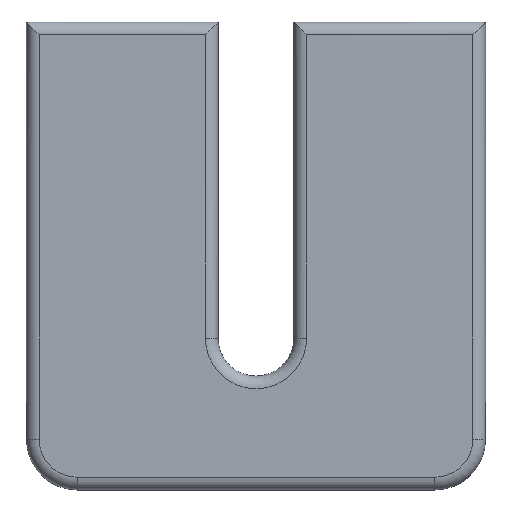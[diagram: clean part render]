
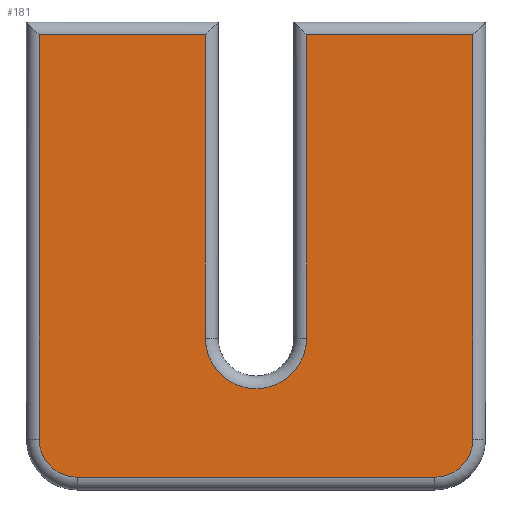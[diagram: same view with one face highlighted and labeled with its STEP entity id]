
A CAD part, top view. The second image highlights one B-rep face of the part: STEP entity #181.
In plain terms, the highlighted planar face has unit normal (0, 0, 1).
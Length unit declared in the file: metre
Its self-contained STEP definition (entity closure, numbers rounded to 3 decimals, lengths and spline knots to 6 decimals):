
#181 = ADVANCED_FACE( '', ( #365 ), #366, .T. );
#365 = FACE_OUTER_BOUND( '', #543, .T. );
#366 = PLANE( '', #544 );
#543 = EDGE_LOOP( '', ( #1007, #1008, #1009, #1010, #1011, #1012, #1013, #1014, #1015, #1016 ) );
#544 = AXIS2_PLACEMENT_3D( '', #1017, #1018, #1019 );
#1007 = ORIENTED_EDGE( '', *, *, #1233, .T. );
#1008 = ORIENTED_EDGE( '', *, *, #1200, .T. );
#1009 = ORIENTED_EDGE( '', *, *, #1084, .T. );
#1010 = ORIENTED_EDGE( '', *, *, #1109, .T. );
#1011 = ORIENTED_EDGE( '', *, *, #1211, .T. );
#1012 = ORIENTED_EDGE( '', *, *, #1168, .T. );
#1013 = ORIENTED_EDGE( '', *, *, #1188, .T. );
#1014 = ORIENTED_EDGE( '', *, *, #1182, .T. );
#1015 = ORIENTED_EDGE( '', *, *, #1055, .T. );
#1016 = ORIENTED_EDGE( '', *, *, #1175, .T. );
#1017 = CARTESIAN_POINT( '', ( 0.029958, 0.031946, 0.009 ) );
#1018 = DIRECTION( '', ( 0., 0., 1. ) );
#1019 = DIRECTION( '', ( 1., 0., 0. ) );
#1055 = EDGE_CURVE( '', #1245, #1250, #1252, .T. );
#1084 = EDGE_CURVE( '', #1305, #1303, #1306, .F. );
#1109 = EDGE_CURVE( '', #1303, #1345, #1347, .T. );
#1168 = EDGE_CURVE( '', #1434, #1432, #1435, .F. );
#1175 = EDGE_CURVE( '', #1250, #1442, #1444, .T. );
#1182 = EDGE_CURVE( '', #1451, #1245, #1453, .F. );
#1188 = EDGE_CURVE( '', #1432, #1451, #1460, .T. );
#1200 = EDGE_CURVE( '', #1471, #1305, #1477, .F. );
#1211 = EDGE_CURVE( '', #1345, #1434, #1488, .T. );
#1233 = EDGE_CURVE( '', #1442, #1471, #1513, .F. );
#1245 = VERTEX_POINT( '', #1525 );
#1250 = VERTEX_POINT( '', #1530 );
#1252 = CIRCLE( '', #1532, 0.006026 );
#1303 = VERTEX_POINT( '', #1604 );
#1305 = VERTEX_POINT( '', #1606 );
#1306 = CIRCLE( '', #1607, 0.008 );
#1345 = VERTEX_POINT( '', #1665 );
#1347 = LINE( '', #1667, #1668 );
#1432 = VERTEX_POINT( '', #1815 );
#1434 = VERTEX_POINT( '', #1817 );
#1435 = LINE( '', #1818, #1819 );
#1442 = VERTEX_POINT( '', #1827 );
#1444 = LINE( '', #1829, #1830 );
#1451 = VERTEX_POINT( '', #1837 );
#1453 = LINE( '', #1839, #1840 );
#1460 = CIRCLE( '', #1849, 0.006026 );
#1471 = VERTEX_POINT( '', #1864 );
#1477 = LINE( '', #1876, #1877 );
#1488 = LINE( '', #1891, #1892 );
#1513 = LINE( '', #1930, #1931 );
#1525 = CARTESIAN_POINT( '', ( 0.058232, -0.003054, 0.009 ) );
#1530 = CARTESIAN_POINT( '', ( 0.064258, 0.002971, 0.009 ) );
#1532 = AXIS2_PLACEMENT_3D( '', #1952, #1953, #1954 );
#1604 = CARTESIAN_POINT( '', ( 0.021958, 0.018946, 0.009 ) );
#1606 = CARTESIAN_POINT( '', ( 0.037958, 0.018946, 0.009 ) );
#1607 = AXIS2_PLACEMENT_3D( '', #1996, #1997, #1998 );
#1665 = CARTESIAN_POINT( '', ( 0.021958, 0.066946, 0.009 ) );
#1667 = CARTESIAN_POINT( '', ( 0.021958, 0.031946, 0.009 ) );
#1668 = VECTOR( '', #2028, 1. );
#1815 = CARTESIAN_POINT( '', ( -0.004342, 0.002971, 0.009 ) );
#1817 = CARTESIAN_POINT( '', ( -0.004342, 0.066946, 0.009 ) );
#1818 = CARTESIAN_POINT( '', ( -0.004342, 0.031946, 0.009 ) );
#1819 = VECTOR( '', #2101, 1. );
#1827 = CARTESIAN_POINT( '', ( 0.064258, 0.066946, 0.009 ) );
#1829 = CARTESIAN_POINT( '', ( 0.064258, 0.068946, 0.009 ) );
#1830 = VECTOR( '', #2112, 1. );
#1837 = CARTESIAN_POINT( '', ( 0.001684, -0.003054, 0.009 ) );
#1839 = CARTESIAN_POINT( '', ( 0.029958, -0.003054, 0.009 ) );
#1840 = VECTOR( '', #2122, 1. );
#1849 = AXIS2_PLACEMENT_3D( '', #2128, #2129, #2130 );
#1864 = CARTESIAN_POINT( '', ( 0.037958, 0.066946, 0.009 ) );
#1876 = CARTESIAN_POINT( '', ( 0.037958, 0.018946, 0.009 ) );
#1877 = VECTOR( '', #2141, 1. );
#1891 = CARTESIAN_POINT( '', ( -0.006342, 0.066946, 0.009 ) );
#1892 = VECTOR( '', #2148, 1. );
#1930 = CARTESIAN_POINT( '', ( 0.029958, 0.066946, 0.009 ) );
#1931 = VECTOR( '', #2167, 1. );
#1952 = CARTESIAN_POINT( '', ( 0.058232, 0.002971, 0.009 ) );
#1953 = DIRECTION( '', ( 0., 0., 1. ) );
#1954 = DIRECTION( '', ( 1., 0., 0. ) );
#1996 = CARTESIAN_POINT( '', ( 0.029958, 0.018946, 0.009 ) );
#1997 = DIRECTION( '', ( 0., 0., 1. ) );
#1998 = DIRECTION( '', ( 1., 0., 0. ) );
#2028 = DIRECTION( '', ( 0., 1., 0. ) );
#2101 = DIRECTION( '', ( 0., 1., 0. ) );
#2112 = DIRECTION( '', ( 0., 1., 0. ) );
#2122 = DIRECTION( '', ( -1., 0., 0. ) );
#2128 = CARTESIAN_POINT( '', ( 0.001684, 0.002971, 0.009 ) );
#2129 = DIRECTION( '', ( 0., 0., 1. ) );
#2130 = DIRECTION( '', ( 1., 0., 0. ) );
#2141 = DIRECTION( '', ( 0., 1., 0. ) );
#2148 = DIRECTION( '', ( -1., 0., 0. ) );
#2167 = DIRECTION( '', ( 1., 0., 0. ) );
